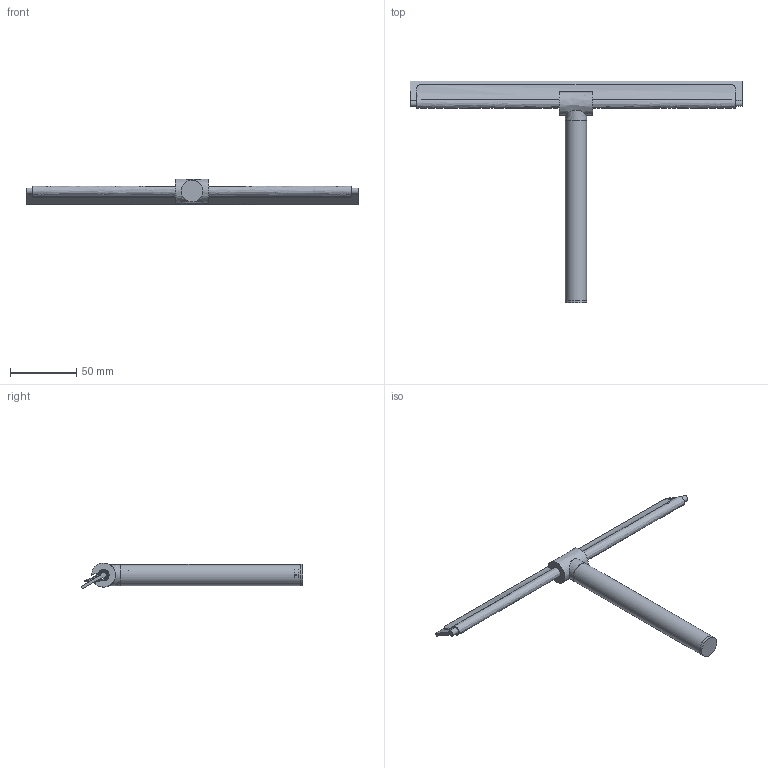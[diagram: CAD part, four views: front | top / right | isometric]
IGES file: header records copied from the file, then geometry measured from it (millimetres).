
Global section: file name: 02cdad0a-5e1c-4d47-b4a3-9a20fcfb0827; native system: unknown; preprocessor: unknown; author: unknown; organization: unknown; date: 20200109.123322; units: millimetre
Bounding box: 250 x 166.91 x 19.36 mm (x, y, z)
Volume: 32437.2 mm3; surface area: 45756.2 mm2
Topology: 7 solids, 7 shells, 88 faces, 243 edges, 167 vertices
Faces by surface type: bspline 88
